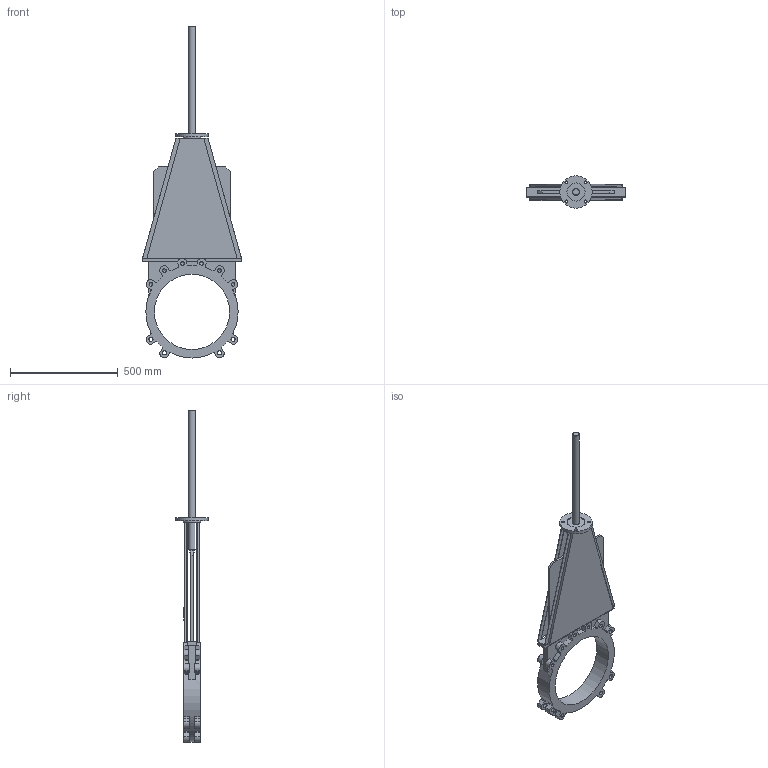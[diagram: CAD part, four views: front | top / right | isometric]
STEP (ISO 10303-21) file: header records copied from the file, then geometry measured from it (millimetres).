
FILE_DESCRIPTION(('STEP AP203'), '1');
FILE_NAME('K51GVA_DN350', '', ('UNSPECIFIED'), ('UNSPECIFIED'), 'ASCON STEP Converter 1.6', 'ASCON Math Kernel', '');
FILE_SCHEMA(('CONFIG_CONTROL_DESIGN'));
Length unit declared in the file: millimetre
Bounding box: 460 x 150 x 1543.5 mm (x, y, z)
Volume: 8291651.8 mm3; surface area: 1605965 mm2
Topology: 1 solids, 1 shells, 273 faces, 780 edges, 509 vertices
Faces by surface type: plane 152, cylinder 108, cone 13
Full cylindrical faces by diameter (mm): 14 x4, 17.294 x12, 19.294 x8, 32 x2, 80 x1, 84 x1, 150 x1, 350 x1
Entity records: 11128 total; most frequent: CARTESIAN_POINT 1728, DIRECTION 1534, ORIENTED_EDGE 1450, EDGE_CURVE 725, AXIS2_PLACEMENT_3D 539, VERTEX_POINT 497, LINE 456, VECTOR 456
